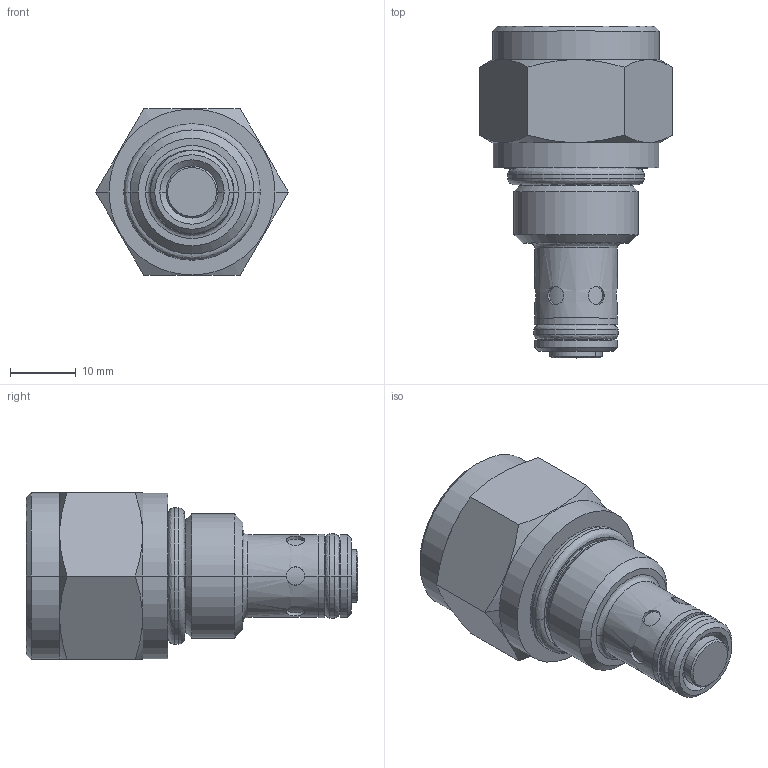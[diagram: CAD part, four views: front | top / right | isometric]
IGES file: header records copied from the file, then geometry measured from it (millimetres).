
Start section:  PTC IGES file: CVRP-08-_-_.igs
Global section: file name: CVRP-08-_-_.igs; native system: Creo Elements/Pro by Parametric Technology Corporation; preprocessor: 2015070; author: torrese; organization: Unknown; date: 20150903.101541; units: inch
Bounding box: 29.33 x 50.52 x 25.4 mm (x, y, z)
Volume: 16838.4 mm3; surface area: 4524.4 mm2
Topology: 1 solids, 1 shells, 96 faces, 196 edges, 116 vertices
Faces by surface type: revolution 78, bspline 18
